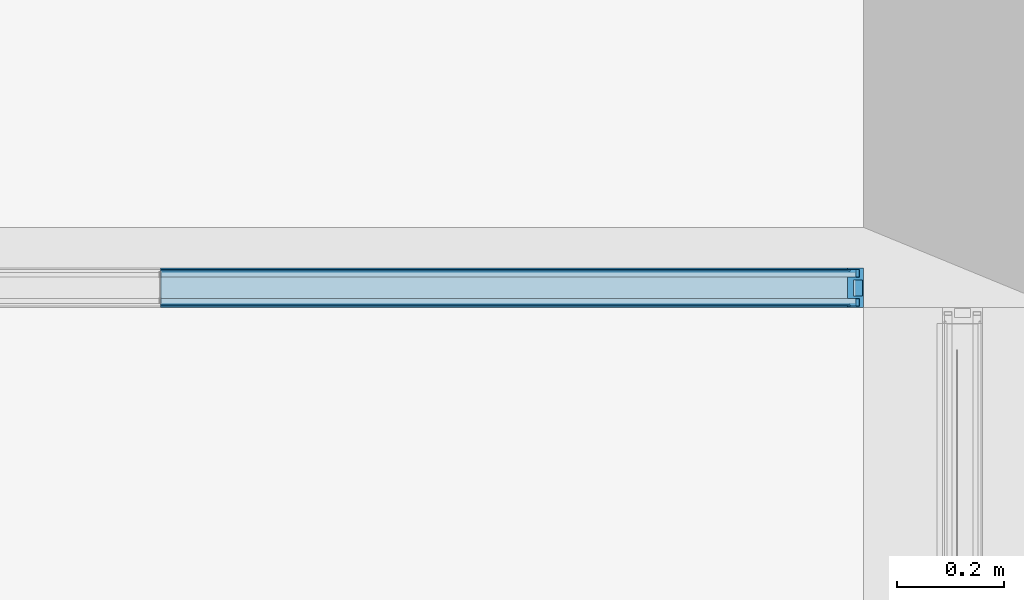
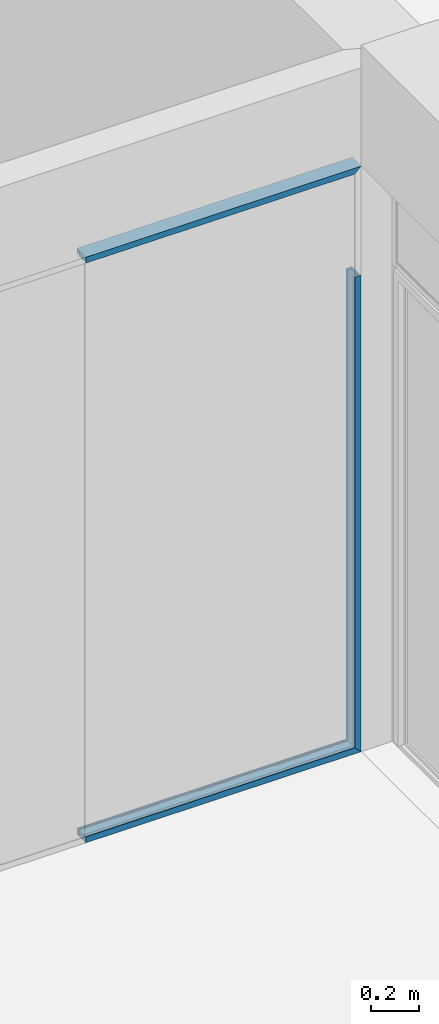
# One storey, part 62 of 89: 5 building element parts, 4 elements without a shape of their own.
"""IFC2X3 building model written with IfcOpenShell, lengths in millimetres."""

from ifc_helpers import new_model, entity, si_unit, converted_unit, derived_unit, money_unit, direction, frame, origin_with_axes, place, context, subcontext, project, spatial, faceted_brep, material, type_object, element, aggregate, save


model = new_model("IFC2X3")

# Units and contexts
model_context = context("Model", 3, precision=0.01, world=origin_with_axes(), true_north=direction((0.0, 1.0)))
body_context = subcontext(model_context, "Body", "Model", "MODEL_VIEW")
ifc_project = project(units=[si_unit("LENGTHUNIT", "METRE", prefix="MILLI"), si_unit("AREAUNIT", "SQUARE_METRE"), si_unit("VOLUMEUNIT", "CUBIC_METRE"), converted_unit("PLANEANGLEUNIT", "DEGREE", entity("IfcPlaneAngleMeasure", 0.0174532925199), si_unit("PLANEANGLEUNIT", "RADIAN"), dimensions=[0, 0, 0, 0, 0, 0, 0]), si_unit("SOLIDANGLEUNIT", "STERADIAN"), money_unit("EUR"), converted_unit("TIMEUNIT", "Year", entity("IfcTimeMeasure", 31556926.0), si_unit("TIMEUNIT", "SECOND"), dimensions=[0, 0, 1, 0, 0, 0, 0]), si_unit("MASSUNIT", "GRAM", prefix="KILO"), si_unit("THERMODYNAMICTEMPERATUREUNIT", "DEGREE_CELSIUS"), si_unit("LUMINOUSINTENSITYUNIT", "LUMEN"), si_unit("ENERGYUNIT", "JOULE", prefix="MEGA"), derived_unit("THERMALCONDUCTANCEUNIT", [(si_unit("POWERUNIT", "WATT"), 1), (si_unit("LENGTHUNIT", "METRE"), -1), (si_unit("THERMODYNAMICTEMPERATUREUNIT", "KELVIN"), -1)]), derived_unit("SPECIFICHEATCAPACITYUNIT", [(si_unit("ENERGYUNIT", "JOULE"), 1), (si_unit("MASSUNIT", "GRAM", prefix="KILO"), -1), (si_unit("THERMODYNAMICTEMPERATUREUNIT", "KELVIN"), -1)]), derived_unit("MASSDENSITYUNIT", [(si_unit("MASSUNIT", "GRAM", prefix="KILO"), 1), (si_unit("VOLUMEUNIT", "CUBIC_METRE"), -1)])], contexts=[model_context])

# Site, building, storey
site_placement = place(None, origin_with_axes())
site = spatial("IfcSite", under=ifc_project, at=site_placement, Name="Puškini 31, Narva", CompositionType="ELEMENT")
building_placement = place(site_placement, origin_with_axes())
building = spatial("IfcBuilding", under=site, at=building_placement, Name="Narva Riigigümnaasium", CompositionType="ELEMENT")
storey_placement = place(building_placement, frame((0.0, 0.0, -3300.0), z_axis=(0.0, 0.0, 1.0), x_axis=(1.0, 0.0, 0.0)))
storey = spatial("IfcBuildingStorey", under=building, at=storey_placement, Name="1.korrus -3.3", CompositionType="ELEMENT", Elevation=-3300.0)

# Curtain wall, members, building element parts
curtain_wall_type = type_object("IfcCurtainWallType", Name="Curtain Wall Type", PredefinedType="NOTDEFINED")
curtain_wall_placement = place(storey_placement, frame((40014.000008, 243997.000057, -9.155864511e-06), z_axis=(0.0, 0.0, 1.0), x_axis=(1.0, 0.0, 0.0)))
curtain_wall = element("IfcCurtainWall", 1, at=curtain_wall_placement, inside=storey, type_object=curtain_wall_type, Name="G-SKLF-09")
member_type = type_object("IfcMemberType", Name="30 x -83", PredefinedType="MULLION")
member_1_placement = place(curtain_wall_placement, frame((6163.99999221, 0.0, 2950.00000716), z_axis=(1.0, 0.0, 0.0), x_axis=(0.0, 0.0, 1.0)))
member_1 = element("IfcMember", 2, at=member_1_placement, type_object=member_type, Name="G-SKLF-47-raam", ObjectType="MULLION")
ifc_material_1 = material(Name="Teras RAL7012")
building_element_part_1_placement = place(member_1_placement, origin_with_axes())
building_element_part_1 = element("IfcBuildingElementPart", 3, at=building_element_part_1_placement, material=ifc_material_1, Name="Teras RAL7012", context=body_context, shape_type="Brep", body=[
    faceted_brep([(0.0, 17.0000000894, 0.0), (-29.5999996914, 17.0000000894, 0.0), (-29.5999996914, 17.0000000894, 1282.40005679), (0.0, 17.0000000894, 1312.00005648), (0.0, -17.0000000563, 0.0), (-29.5999996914, -17.0000000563, 0.0), (-1.9999999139, -15.0000001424, 0.0), (-1.9999999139, 15.0000001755, 0.0), (-18.7999996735, 15.0000001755, 0.0), (-18.7999996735, -15.0000001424, 0.0), (-29.5999996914, -17.0000000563, 1282.40005679), (0.0, -17.0000000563, 1312.00005648), (-1.9999999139, -15.0000001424, 1310.00005656), (-18.7999996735, -15.0000001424, 1293.2000568), (-18.7999996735, 15.0000001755, 1293.2000568), (-1.9999999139, 15.0000001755, 1310.00005656)], [[[0, 1, 2, 3]], [[0, 4, 5, 1], [6, 7, 8, 9]], [[1, 5, 10, 2]], [[3, 2, 10, 11], [12, 13, 14, 15]], [[4, 0, 3, 11]], [[5, 4, 11, 10]], [[7, 6, 12, 15]], [[8, 7, 15, 14]], [[9, 8, 14, 13]], [[6, 9, 13, 12]]]),
    faceted_brep([(0.0, -17.0, 0.0), (-29.5999996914, -17.0000000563, 0.0), (-29.5999996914, -17.0000000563, 1282.40005679), (0.0, -17.0, 1312.00005648), (0.0, -37.0, 0.0), (-30.0000193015, -37.0, 0.0), (-30.0000193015, -34.0161444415, 0.0), (-28.5126239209, -34.0161444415, 0.0), (-24.987414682, -34.0161444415, 0.0), (-13.8499999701, -34.0161444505, 0.0), (-7.49999999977, -34.0161444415, 0.0), (-7.49999999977, -20.0, 0.0), (-13.8499999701, -20.000000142, 0.0), (-30.0000193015, -20.0, 0.0), (-30.0000193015, -17.0, 0.0), (-30.0000193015, -17.0, 1282.00003718), (-30.0000193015, -20.0, 1282.00003718), (-13.8499999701, -20.000000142, 1298.15005651), (-7.49999999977, -20.0, 1304.50005648), (-7.49999999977, -34.0161444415, 1304.50005648), (-13.8499999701, -34.0161444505, 1298.15005651), (-24.987414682, -34.0161444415, 1287.0126418), (-28.5126239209, -34.0161444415, 1283.48743256), (-30.0000193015, -34.0161444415, 1282.00003718), (-30.0000193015, -37.0, 1282.00003718), (0.0, -37.0, 1312.00005648)], [[[0, 1, 2, 3]], [[0, 4, 5, 6, 7, 8, 9, 10, 11, 12, 13, 14, 1]], [[1, 14, 15, 2]], [[3, 2, 15, 16, 17, 18, 19, 20, 21, 22, 23, 24, 25]], [[4, 0, 3, 25]], [[5, 4, 25, 24]], [[6, 5, 24, 23]], [[7, 6, 23, 22]], [[8, 7, 22, 21]], [[9, 8, 21, 20]], [[10, 9, 20, 19]], [[11, 10, 19, 18]], [[12, 11, 18, 17]], [[13, 12, 17, 16]], [[14, 13, 16, 15]]]),
    faceted_brep([(0.0, 17.0, 0.0), (0.0, 37.0, 0.0), (0.0, 37.0, 1312.00005648), (0.0, 17.0, 1312.00005648), (-29.5999996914, 17.0000000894, 0.0), (-30.0000193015, 17.0, 0.0), (-30.0000193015, 20.0, 0.0), (-13.8499999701, 19.9999997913, 0.0), (-7.49999999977, 20.0, 0.0), (-7.49999999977, 34.0161444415, 0.0), (-13.8499999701, 34.0161445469, 0.0), (-24.987414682, 34.0161444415, 0.0), (-28.5126239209, 34.0161444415, 0.0), (-30.0000193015, 34.0161444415, 0.0), (-30.0000193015, 37.0, 0.0), (-30.0000193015, 37.0, 1282.00003718), (-30.0000193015, 34.0161444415, 1282.00003718), (-28.5126239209, 34.0161444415, 1283.48743256), (-24.987414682, 34.0161444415, 1287.0126418), (-13.8499999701, 34.0161445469, 1298.15005651), (-7.49999999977, 34.0161444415, 1304.50005648), (-7.49999999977, 20.0, 1304.50005648), (-13.8499999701, 19.9999997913, 1298.15005651), (-30.0000193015, 20.0, 1282.00003718), (-30.0000193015, 17.0, 1282.00003718), (-29.5999996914, 17.0000000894, 1282.40005679)], [[[0, 1, 2, 3]], [[0, 4, 5, 6, 7, 8, 9, 10, 11, 12, 13, 14, 1]], [[1, 14, 15, 2]], [[3, 2, 15, 16, 17, 18, 19, 20, 21, 22, 23, 24, 25]], [[4, 0, 3, 25]], [[5, 4, 25, 24]], [[6, 5, 24, 23]], [[7, 6, 23, 22]], [[8, 7, 22, 21]], [[9, 8, 21, 20]], [[10, 9, 20, 19]], [[11, 10, 19, 18]], [[12, 11, 18, 17]], [[13, 12, 17, 16]], [[14, 13, 16, 15]]]),
])
aggregate(member_1, [building_element_part_1])
member_2_placement = place(curtain_wall_placement, frame((7476.00004869, 0.0, 0.0), z_axis=(0.0, 0.0, 1.0), x_axis=(-1.0, 0.0, 0.0)))
member_2 = element("IfcMember", 4, at=member_2_placement, type_object=member_type, Name="G-SKLF-45-raam", ObjectType="MULLION")
ifc_material_2 = material(Name="Klaasvill")
building_element_part_2_placement = place(member_2_placement, origin_with_axes())
building_element_part_2 = element("IfcBuildingElementPart", 5, at=building_element_part_2_placement, material=ifc_material_2, Name="Klaasvill", context=body_context, shape_type="Brep", body=[
    faceted_brep([(13.8499999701, -20.000000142, 13.8499999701), (7.49999990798, -20.000000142, 7.49999990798), (7.49999990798, -20.000000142, 2400.00000716), (13.8499999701, -20.000000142, 2400.00000716), (13.8499999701, -34.0161444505, 13.8499999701), (7.49999990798, -34.0161444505, 7.49999990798), (7.49999990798, -34.0161444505, 2400.00000716), (13.8499999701, -34.0161444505, 2400.00000716)], [[[0, 1, 2, 3]], [[1, 0, 4, 5]], [[1, 5, 6, 2]], [[2, 6, 7, 3]], [[4, 0, 3, 7]], [[5, 4, 7, 6]]]),
    faceted_brep([(25.004489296, -32.0307503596, 25.004489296), (24.987414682, -34.0161444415, 24.987414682), (24.987414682, -34.0161444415, 2400.00000716), (25.004489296, -32.0307503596, 2400.00000716), (25.742237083, -31.2930025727, 25.742237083), (26.7500193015, -31.0229681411, 26.7500193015), (27.75780152, -31.2930025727, 27.75780152), (28.4955493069, -32.0307503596, 28.4955493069), (28.7655837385, -33.0385325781, 28.7655837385), (28.5126239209, -34.0161444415, 28.5126239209), (28.5126239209, -34.0161444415, 2400.00000716), (28.7655837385, -33.0385325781, 2400.00000716), (28.4955493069, -32.0307503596, 2400.00000716), (27.75780152, -31.2930025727, 2400.00000716), (26.7500193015, -31.0229681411, 2400.00000716), (25.742237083, -31.2930025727, 2400.00000716)], [[[0, 1, 2, 3]], [[1, 0, 4, 5, 6, 7, 8, 9]], [[1, 9, 10, 2]], [[2, 10, 11, 12, 13, 14, 15, 3]], [[4, 0, 3, 15]], [[5, 4, 15, 14]], [[6, 5, 14, 13]], [[7, 6, 13, 12]], [[8, 7, 12, 11]], [[9, 8, 11, 10]]]),
    faceted_brep([(7.49999990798, 34.0161445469, 7.49999990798), (7.49999990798, 19.9999997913, 7.49999990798), (7.49999990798, 19.9999997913, 2400.00000716), (7.49999990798, 34.0161445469, 2400.00000716), (13.8499999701, 34.0161445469, 13.8499999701), (13.8499999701, 19.9999997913, 13.8499999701), (13.8499999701, 19.9999997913, 2400.00000716), (13.8499999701, 34.0161445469, 2400.00000716)], [[[0, 1, 2, 3]], [[1, 0, 4, 5]], [[1, 5, 6, 2]], [[2, 6, 7, 3]], [[4, 0, 3, 7]], [[5, 4, 7, 6]]]),
    faceted_brep([(24.987414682, 34.0161444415, 24.987414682), (25.004489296, 32.0307503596, 25.004489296), (25.004489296, 32.0307503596, 2400.00000716), (24.987414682, 34.0161444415, 2400.00000716), (28.5126239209, 34.0161444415, 28.5126239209), (28.7655837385, 33.0385325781, 28.7655837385), (28.4955493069, 32.0307503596, 28.4955493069), (27.75780152, 31.2930025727, 27.75780152), (26.7500193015, 31.0229681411, 26.7500193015), (25.742237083, 31.2930025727, 25.742237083), (25.742237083, 31.2930025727, 2400.00000716), (26.7500193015, 31.0229681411, 2400.00000716), (27.75780152, 31.2930025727, 2400.00000716), (28.4955493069, 32.0307503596, 2400.00000716), (28.7655837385, 33.0385325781, 2400.00000716), (28.5126239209, 34.0161444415, 2400.00000716)], [[[0, 1, 2, 3]], [[1, 0, 4, 5, 6, 7, 8, 9]], [[1, 9, 10, 2]], [[2, 10, 11, 12, 13, 14, 15, 3]], [[4, 0, 3, 15]], [[5, 4, 15, 14]], [[6, 5, 14, 13]], [[7, 6, 13, 12]], [[8, 7, 12, 11]], [[9, 8, 11, 10]]]),
])
building_element_part_3_placement = place(member_2_placement, origin_with_axes())
building_element_part_3 = element("IfcBuildingElementPart", 6, at=building_element_part_3_placement, material=ifc_material_1, Name="Teras RAL7012", context=body_context, shape_type="Brep", body=[
    faceted_brep([(29.5999996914, 17.0000000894, 29.5999996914), (0.0, 17.0000000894, 0.0), (0.0, 17.0000000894, 2400.00000716), (29.5999996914, 17.0000000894, 2400.00000716), (29.5999996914, -17.0000000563, 29.5999996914), (0.0, -17.0000000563, 0.0), (1.99999991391, -15.0000001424, 1.9999999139), (18.7999996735, -15.0000001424, 18.7999996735), (18.7999996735, 15.0000001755, 18.7999996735), (1.99999991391, 15.0000001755, 1.9999999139), (0.0, -17.0000000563, 2400.00000716), (29.5999996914, -17.0000000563, 2400.00000716), (1.99999991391, -15.0000001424, 2400.00000716), (1.99999991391, 15.0000001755, 2400.00000716), (18.7999996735, 15.0000001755, 2400.00000716), (18.7999996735, -15.0000001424, 2400.00000716)], [[[0, 1, 2, 3]], [[1, 0, 4, 5], [6, 7, 8, 9]], [[1, 5, 10, 2]], [[2, 10, 11, 3], [12, 13, 14, 15]], [[4, 0, 3, 11]], [[5, 4, 11, 10]], [[7, 6, 12, 15]], [[8, 7, 15, 14]], [[9, 8, 14, 13]], [[6, 9, 13, 12]]]),
    faceted_brep([(29.5999996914, -17.0000000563, 29.5999996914), (0.0, -17.0, 0.0), (0.0, -17.0, 2400.00000716), (29.5999996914, -17.0000000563, 2400.00000716), (30.0000193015, -17.0, 30.0000193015), (30.0000193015, -20.0, 30.0000193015), (13.8499999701, -20.000000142, 13.8499999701), (7.49999999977, -20.0, 7.49999999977), (7.49999999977, -34.0161444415, 7.49999999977), (13.8499999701, -34.0161444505, 13.8499999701), (24.987414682, -34.0161444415, 24.987414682), (28.5126239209, -34.0161444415, 28.5126239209), (30.0000193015, -34.0161444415, 30.0000193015), (30.0000193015, -37.0, 30.0000193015), (0.0, -37.0, 0.0), (0.0, -37.0, 2400.00000716), (30.0000193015, -37.0, 2400.00000716), (30.0000193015, -34.0161444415, 2400.00000716), (28.5126239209, -34.0161444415, 2400.00000716), (24.987414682, -34.0161444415, 2400.00000716), (13.8499999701, -34.0161444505, 2400.00000716), (7.49999999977, -34.0161444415, 2400.00000716), (7.49999999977, -20.0, 2400.00000716), (13.8499999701, -20.000000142, 2400.00000716), (30.0000193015, -20.0, 2400.00000716), (30.0000193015, -17.0, 2400.00000716)], [[[0, 1, 2, 3]], [[1, 0, 4, 5, 6, 7, 8, 9, 10, 11, 12, 13, 14]], [[1, 14, 15, 2]], [[2, 15, 16, 17, 18, 19, 20, 21, 22, 23, 24, 25, 3]], [[4, 0, 3, 25]], [[5, 4, 25, 24]], [[6, 5, 24, 23]], [[7, 6, 23, 22]], [[8, 7, 22, 21]], [[9, 8, 21, 20]], [[10, 9, 20, 19]], [[11, 10, 19, 18]], [[12, 11, 18, 17]], [[13, 12, 17, 16]], [[14, 13, 16, 15]]]),
    faceted_brep([(0.0, 37.0, 0.0), (0.0, 17.0, 0.0), (0.0, 17.0, 2400.00000716), (0.0, 37.0, 2400.00000716), (30.0000193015, 37.0, 30.0000193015), (30.0000193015, 34.0161444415, 30.0000193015), (28.5126239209, 34.0161444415, 28.5126239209), (24.987414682, 34.0161444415, 24.987414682), (13.8499999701, 34.0161445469, 13.8499999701), (7.49999999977, 34.0161444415, 7.49999999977), (7.49999999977, 20.0, 7.49999999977), (13.8499999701, 19.9999997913, 13.8499999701), (30.0000193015, 20.0, 30.0000193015), (30.0000193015, 17.0, 30.0000193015), (29.5999996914, 17.0000000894, 29.5999996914), (29.5999996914, 17.0000000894, 2400.00000716), (30.0000193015, 17.0, 2400.00000716), (30.0000193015, 20.0, 2400.00000716), (13.8499999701, 19.9999997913, 2400.00000716), (7.49999999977, 20.0, 2400.00000716), (7.49999999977, 34.0161444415, 2400.00000716), (13.8499999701, 34.0161445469, 2400.00000716), (24.987414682, 34.0161444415, 2400.00000716), (28.5126239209, 34.0161444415, 2400.00000716), (30.0000193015, 34.0161444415, 2400.00000716), (30.0000193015, 37.0, 2400.00000716)], [[[0, 1, 2, 3]], [[1, 0, 4, 5, 6, 7, 8, 9, 10, 11, 12, 13, 14]], [[1, 14, 15, 2]], [[2, 15, 16, 17, 18, 19, 20, 21, 22, 23, 24, 25, 3]], [[4, 0, 3, 25]], [[5, 4, 25, 24]], [[6, 5, 24, 23]], [[7, 6, 23, 22]], [[8, 7, 22, 21]], [[9, 8, 21, 20]], [[10, 9, 20, 19]], [[11, 10, 19, 18]], [[12, 11, 18, 17]], [[13, 12, 17, 16]], [[14, 13, 16, 15]]]),
])
aggregate(member_2, [building_element_part_2, building_element_part_3])
member_3_placement = place(curtain_wall_placement, frame((6163.99999221, 0.0, 0.0), z_axis=(1.0, 0.0, 0.0), x_axis=(0.0, 0.0, 1.0)))
member_3 = element("IfcMember", 7, at=member_3_placement, type_object=member_type, Name="G-SKLF-44-raam", ObjectType="MULLION")
aggregate(curtain_wall, [member_1, member_2, member_3])
building_element_part_4_placement = place(member_3_placement, origin_with_axes())
building_element_part_4 = element("IfcBuildingElementPart", 8, at=building_element_part_4_placement, material=ifc_material_2, Name="Klaasvill", context=body_context, shape_type="Brep", body=[
    faceted_brep([(7.49999990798, -20.000000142, 0.0), (7.49999990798, -20.000000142, 1304.50005657), (13.8499999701, -20.000000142, 1298.15005651), (13.8499999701, -20.000000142, 0.0), (7.49999990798, -34.0161444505, 0.0), (7.49999990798, -34.0161444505, 1304.50005657), (13.8499999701, -34.0161444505, 1298.15005651), (13.8499999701, -34.0161444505, 0.0)], [[[0, 1, 2, 3]], [[4, 5, 1, 0]], [[1, 5, 6, 2]], [[3, 2, 6, 7]], [[0, 3, 7, 4]], [[7, 6, 5, 4]]]),
    faceted_brep([(24.987414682, -34.0161444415, 0.0), (24.987414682, -34.0161444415, 1287.0126418), (25.004489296, -32.0307503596, 1286.99556718), (25.004489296, -32.0307503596, 0.0), (28.5126239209, -34.0161444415, 0.0), (28.5126239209, -34.0161444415, 1283.48743256), (28.7655837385, -33.0385325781, 1283.23447274), (28.4955493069, -32.0307503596, 1283.50450717), (27.75780152, -31.2930025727, 1284.24225496), (26.7500193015, -31.0229681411, 1285.25003718), (25.742237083, -31.2930025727, 1286.25781939), (25.742237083, -31.2930025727, 0.0), (26.7500193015, -31.0229681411, 0.0), (27.75780152, -31.2930025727, 0.0), (28.4955493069, -32.0307503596, 0.0), (28.7655837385, -33.0385325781, 0.0)], [[[0, 1, 2, 3]], [[4, 5, 1, 0]], [[1, 5, 6, 7, 8, 9, 10, 2]], [[3, 2, 10, 11]], [[0, 3, 11, 12, 13, 14, 15, 4]], [[15, 6, 5, 4]], [[14, 7, 6, 15]], [[13, 8, 7, 14]], [[12, 9, 8, 13]], [[11, 10, 9, 12]]]),
    faceted_brep([(7.49999990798, 19.9999997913, 0.0), (7.49999990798, 19.9999997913, 1304.50005657), (7.49999990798, 34.0161445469, 1304.50005657), (7.49999990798, 34.0161445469, 0.0), (13.8499999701, 19.9999997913, 0.0), (13.8499999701, 19.9999997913, 1298.15005651), (13.8499999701, 34.0161445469, 1298.15005651), (13.8499999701, 34.0161445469, 0.0)], [[[0, 1, 2, 3]], [[4, 5, 1, 0]], [[1, 5, 6, 2]], [[3, 2, 6, 7]], [[0, 3, 7, 4]], [[7, 6, 5, 4]]]),
    faceted_brep([(25.004489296, 32.0307503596, 0.0), (25.004489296, 32.0307503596, 1286.99556718), (24.987414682, 34.0161444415, 1287.0126418), (24.987414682, 34.0161444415, 0.0), (25.742237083, 31.2930025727, 0.0), (25.742237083, 31.2930025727, 1286.25781939), (26.7500193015, 31.0229681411, 1285.25003718), (27.75780152, 31.2930025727, 1284.24225496), (28.4955493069, 32.0307503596, 1283.50450717), (28.7655837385, 33.0385325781, 1283.23447274), (28.5126239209, 34.0161444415, 1283.48743256), (28.5126239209, 34.0161444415, 0.0), (28.7655837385, 33.0385325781, 0.0), (28.4955493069, 32.0307503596, 0.0), (27.75780152, 31.2930025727, 0.0), (26.7500193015, 31.0229681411, 0.0)], [[[0, 1, 2, 3]], [[4, 5, 1, 0]], [[1, 5, 6, 7, 8, 9, 10, 2]], [[3, 2, 10, 11]], [[0, 3, 11, 12, 13, 14, 15, 4]], [[15, 6, 5, 4]], [[14, 7, 6, 15]], [[13, 8, 7, 14]], [[12, 9, 8, 13]], [[11, 10, 9, 12]]]),
])
building_element_part_5_placement = place(member_3_placement, origin_with_axes())
building_element_part_5 = element("IfcBuildingElementPart", 9, at=building_element_part_5_placement, material=ifc_material_1, Name="Teras RAL7012", context=body_context, shape_type="Brep", body=[
    faceted_brep([(0.0, 17.0000000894, 0.0), (0.0, 17.0000000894, 1312.00005648), (29.5999996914, 17.0000000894, 1282.40005679), (29.5999996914, 17.0000000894, 0.0), (0.0, -17.0000000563, 0.0), (0.0, -17.0000000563, 1312.00005648), (29.5999996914, -17.0000000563, 1282.40005679), (1.9999999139, -15.0000001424, 1310.00005656), (1.9999999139, 15.0000001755, 1310.00005656), (18.7999996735, 15.0000001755, 1293.2000568), (18.7999996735, -15.0000001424, 1293.2000568), (29.5999996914, -17.0000000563, 0.0), (1.9999999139, -15.0000001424, 0.0), (18.7999996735, -15.0000001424, 0.0), (18.7999996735, 15.0000001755, 0.0), (1.9999999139, 15.0000001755, 0.0)], [[[0, 1, 2, 3]], [[4, 5, 1, 0]], [[1, 5, 6, 2], [7, 8, 9, 10]], [[3, 2, 6, 11]], [[0, 3, 11, 4], [12, 13, 14, 15]], [[11, 6, 5, 4]], [[15, 8, 7, 12]], [[14, 9, 8, 15]], [[13, 10, 9, 14]], [[12, 7, 10, 13]]]),
    faceted_brep([(0.0, -17.0, 0.0), (0.0, -17.0, 1312.00005648), (29.5999996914, -17.0000000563, 1282.40005679), (29.5999996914, -17.0000000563, 0.0), (0.0, -37.0, 0.0), (0.0, -37.0, 1312.00005648), (30.0000193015, -37.0, 1282.00003718), (30.0000193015, -34.0161444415, 1282.00003718), (28.5126239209, -34.0161444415, 1283.48743256), (24.987414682, -34.0161444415, 1287.0126418), (13.8499999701, -34.0161444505, 1298.15005651), (7.49999999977, -34.0161444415, 1304.50005648), (7.49999999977, -20.0, 1304.50005648), (13.8499999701, -20.000000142, 1298.15005651), (30.0000193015, -20.0, 1282.00003718), (30.0000193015, -17.0, 1282.00003718), (30.0000193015, -17.0, 0.0), (30.0000193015, -20.0, 0.0), (13.8499999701, -20.000000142, 0.0), (7.49999999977, -20.0, 0.0), (7.49999999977, -34.0161444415, 0.0), (13.8499999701, -34.0161444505, 0.0), (24.987414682, -34.0161444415, 0.0), (28.5126239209, -34.0161444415, 0.0), (30.0000193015, -34.0161444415, 0.0), (30.0000193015, -37.0, 0.0)], [[[0, 1, 2, 3]], [[4, 5, 1, 0]], [[1, 5, 6, 7, 8, 9, 10, 11, 12, 13, 14, 15, 2]], [[3, 2, 15, 16]], [[0, 3, 16, 17, 18, 19, 20, 21, 22, 23, 24, 25, 4]], [[25, 6, 5, 4]], [[24, 7, 6, 25]], [[23, 8, 7, 24]], [[22, 9, 8, 23]], [[21, 10, 9, 22]], [[20, 11, 10, 21]], [[19, 12, 11, 20]], [[18, 13, 12, 19]], [[17, 14, 13, 18]], [[16, 15, 14, 17]]]),
    faceted_brep([(0.0, 17.0, 0.0), (0.0, 17.0, 1312.00005648), (0.0, 37.0, 1312.00005648), (0.0, 37.0, 0.0), (29.5999996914, 17.0000000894, 0.0), (29.5999996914, 17.0000000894, 1282.40005679), (30.0000193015, 17.0, 1282.00003718), (30.0000193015, 20.0, 1282.00003718), (13.8499999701, 19.9999997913, 1298.15005651), (7.49999999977, 20.0, 1304.50005648), (7.49999999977, 34.0161444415, 1304.50005648), (13.8499999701, 34.0161445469, 1298.15005651), (24.987414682, 34.0161444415, 1287.0126418), (28.5126239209, 34.0161444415, 1283.48743256), (30.0000193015, 34.0161444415, 1282.00003718), (30.0000193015, 37.0, 1282.00003718), (30.0000193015, 37.0, 0.0), (30.0000193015, 34.0161444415, 0.0), (28.5126239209, 34.0161444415, 0.0), (24.987414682, 34.0161444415, 0.0), (13.8499999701, 34.0161445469, 0.0), (7.49999999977, 34.0161444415, 0.0), (7.49999999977, 20.0, 0.0), (13.8499999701, 19.9999997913, 0.0), (30.0000193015, 20.0, 0.0), (30.0000193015, 17.0, 0.0)], [[[0, 1, 2, 3]], [[4, 5, 1, 0]], [[1, 5, 6, 7, 8, 9, 10, 11, 12, 13, 14, 15, 2]], [[3, 2, 15, 16]], [[0, 3, 16, 17, 18, 19, 20, 21, 22, 23, 24, 25, 4]], [[25, 6, 5, 4]], [[24, 7, 6, 25]], [[23, 8, 7, 24]], [[22, 9, 8, 23]], [[21, 10, 9, 22]], [[20, 11, 10, 21]], [[19, 12, 11, 20]], [[18, 13, 12, 19]], [[17, 14, 13, 18]], [[16, 15, 14, 17]]]),
])
aggregate(member_3, [building_element_part_4, building_element_part_5])

save(model, "model.ifc")
